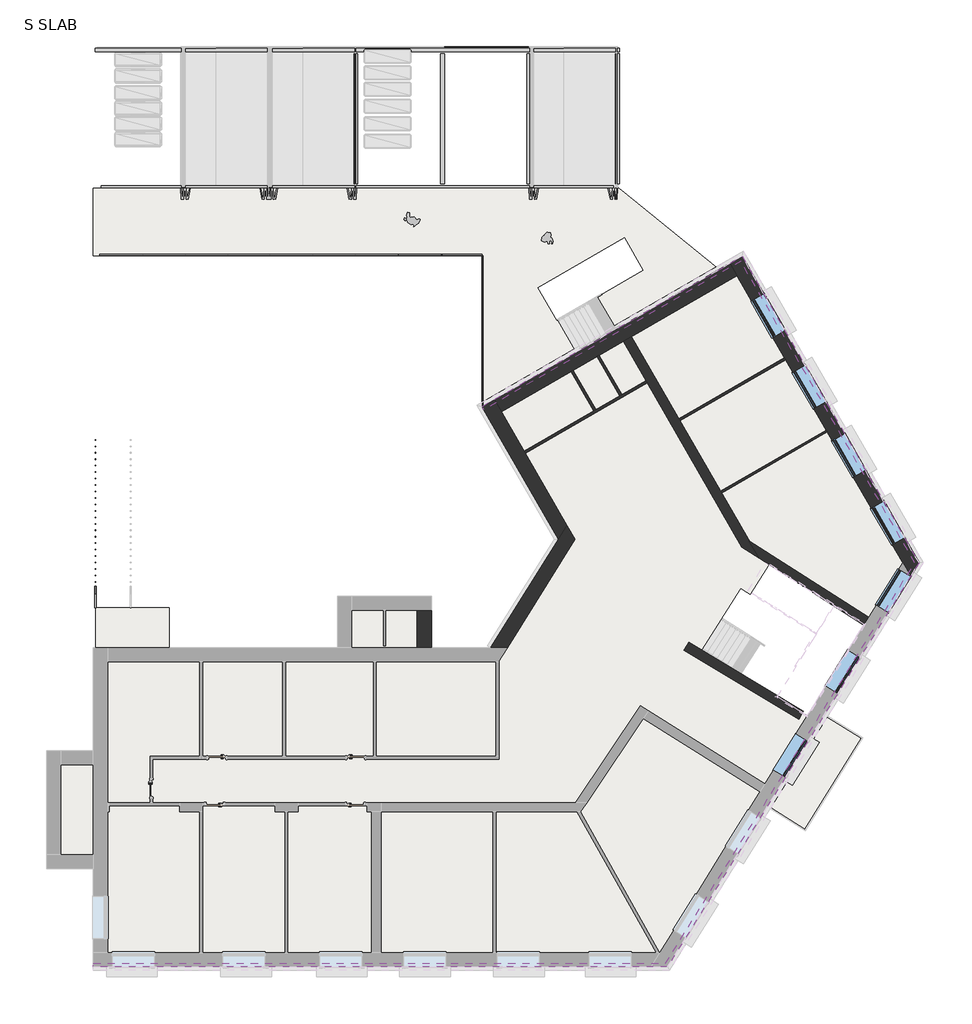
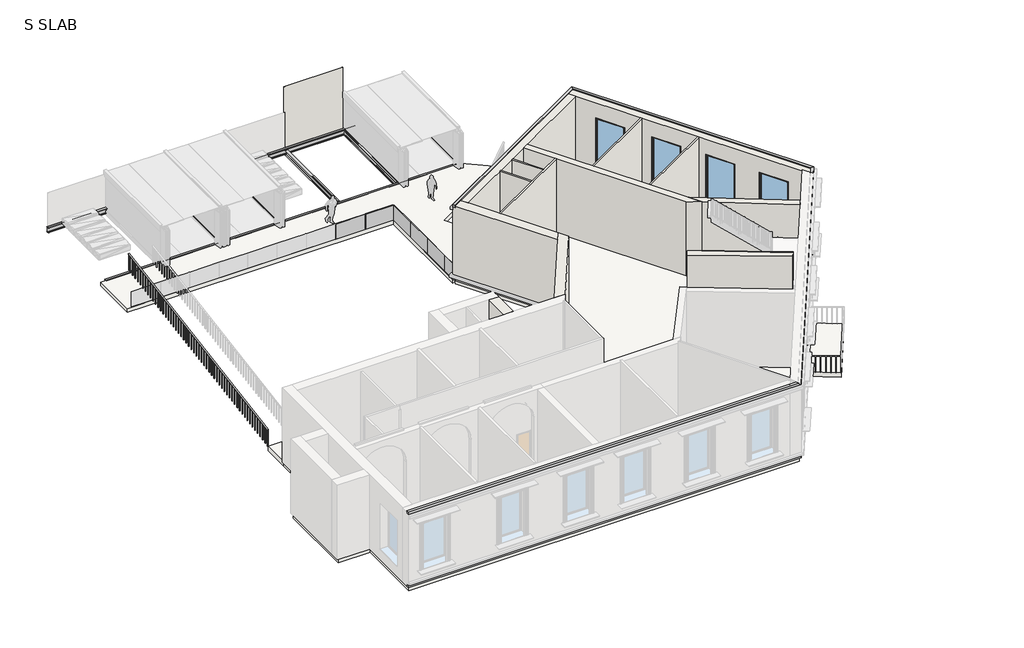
# One storey, part 2 of 4: 14 walls, 7 beams, 7 plates, 7 windows, 2 proxies, 2 slabs, 1 railing.
"""IFC4 building model written with IfcOpenShell, lengths in millimetres."""

from ifc_helpers import new_model, si_unit, frame, origin, place, context, project, spatial, polyline, outline, extrude, faceted_brep, transform, mapped, element, save
from components import ub_universal_beams_ub305x165x40_a89eb652, ub_universal_beams_ub305x165x40_de42b84e, ub_universal_beams_ub305x165x40_bd95d4e6, system_panel_glazed_a0877fd3, system_panel_glazed_1c1d8f5b, system_panel_glazed_525ed004, system_panel_glazed_75f56514, windows_sgl_plain_1810x1210mm_9f3af405

model = new_model("IFC4")

# Units and contexts
model_context = context("Model", 3, world=origin())
ifc_project = project(units=[si_unit("LENGTHUNIT", "METRE", prefix="MILLI")], contexts=[model_context])

# Site, building, storey
site = spatial("IfcSite", under=ifc_project)
building = spatial("IfcBuilding", under=site)
storey = spatial("IfcBuildingStorey", under=building, Name="S SLAB", Elevation=6300.0)

# Beams
placement = place(None, origin())
ub_universal_beams_ub305x165x40_shape = ub_universal_beams_ub305x165x40_a89eb652(model_context)
element("IfcBeam", 1, ObjectType="UB-Universal Beams : UB305x165x40", at=placement, inside=storey, context=model_context, shape_type="MappedRepresentation", body=[
    mapped(ub_universal_beams_ub305x165x40_shape, transform((3293.8958184, 35051.9809735, 6148.3), x_axis=(1.0, 0.0, 0.0), y_axis=(0.0, 1.0, 0.0), z_axis=(0.0, 0.0, 1.0))),
])
ub_universal_beams_ub305x165x40_2_shape = ub_universal_beams_ub305x165x40_de42b84e(model_context)
element("IfcBeam", 2, ObjectType="UB-Universal Beams : UB305x165x40", at=placement, inside=storey, context=model_context, shape_type="MappedRepresentation", body=[
    mapped(ub_universal_beams_ub305x165x40_2_shape, transform((-2187.5596017, 29190.0288254, 6148.3), x_axis=(1.0, 0.0, 0.0), y_axis=(0.0, 1.0, 0.0), z_axis=(0.0, 0.0, 1.0))),
])
ub_universal_beams_ub305x165x40_3_shape = ub_universal_beams_ub305x165x40_bd95d4e6(model_context)
element("IfcBeam", 3, ObjectType="UB-Universal Beams : UB305x165x40", at=placement, inside=storey, context=model_context, shape_type="MappedRepresentation", body=[
    mapped(ub_universal_beams_ub305x165x40_3_shape, transform((-5929.1066547, 32121.0048994, 6148.3), x_axis=(0.0, -1.0, 0.0), y_axis=(1.0, 0.0, 0.0), z_axis=(0.0, 0.0, 1.0))),
])
element("IfcBeam", 4, ObjectType="UB-Universal Beams : UB305x165x40", at=placement, inside=storey, context=model_context, shape_type="MappedRepresentation", body=[
    mapped(ub_universal_beams_ub305x165x40_3_shape, transform((-2245.9725728, 32121.0048994, 6148.3), x_axis=(0.0, -1.0, 0.0), y_axis=(1.0, 0.0, 0.0), z_axis=(0.0, 0.0, 1.0))),
])
element("IfcBeam", 5, ObjectType="UB-Universal Beams : UB305x165x40", at=placement, inside=storey, context=model_context, shape_type="MappedRepresentation", body=[
    mapped(ub_universal_beams_ub305x165x40_3_shape, transform((1448.4037035, 32121.0048994, 6148.3), x_axis=(0.0, -1.0, 0.0), y_axis=(1.0, 0.0, 0.0), z_axis=(0.0, 0.0, 1.0))),
])
element("IfcBeam", 6, ObjectType="UB-Universal Beams : UB305x165x40", at=placement, inside=storey, context=model_context, shape_type="MappedRepresentation", body=[
    mapped(ub_universal_beams_ub305x165x40_3_shape, transform((5139.3879332, 32121.0048994, 6148.3), x_axis=(0.0, -1.0, 0.0), y_axis=(1.0, 0.0, 0.0), z_axis=(0.0, 0.0, 1.0))),
])
element("IfcBeam", 7, ObjectType="UB-Universal Beams : UB305x165x40", at=placement, inside=storey, context=model_context, shape_type="MappedRepresentation", body=[
    mapped(ub_universal_beams_ub305x165x40_3_shape, transform((8901.9425222, 32121.0048994, 6148.3), x_axis=(0.0, -1.0, 0.0), y_axis=(1.0, 0.0, 0.0), z_axis=(0.0, 0.0, 1.0))),
])

# Proxies
element("IfcBuildingElementProxy", 8, Name="Reveal", ObjectType="Reveal", at=placement, inside=storey, context=model_context, shape_type="SweptSolid", body=[
    extrude(outline(polyline([(-13431.6874983, -4009.9711746), (-13431.6874983, -3857.5711746), (10950.2600964, -3857.5711746), (11034.8726536, -4009.9711746), (-13431.6874983, -4009.9711746)])), frame((0.0, 0.0, 6300.0), z_axis=(0.0, 0.0, 1.0), x_axis=(1.0, 0.0, 0.0)), (0.0, 0.0, 1.0), 152.4),
    extrude(outline(polyline([(21579.4545819, 13204.412798), (21757.1517651, 13201.4322483), (11034.8726536, -4009.9711746), (10950.2600964, -3857.5711746), (21579.4545819, 13204.412798)])), frame((0.0, 0.0, 6300.0), z_axis=(0.0, 0.0, 1.0), x_axis=(1.0, 0.0, 0.0)), (0.0, 0.0, 1.0), 152.4),
    extrude(outline(polyline([(14161.37951, 26052.8957169), (14217.1617815, 26261.0779885), (21757.1517651, 13201.4322483), (21579.4545819, 13204.412798), (14161.37951, 26052.8957169)])), frame((0.0, 0.0, 6300.0), z_axis=(0.0, 0.0, 1.0), x_axis=(1.0, 0.0, 0.0)), (0.0, 0.0, 1.0), 152.4),
    extrude(outline(polyline([(3208.2366131, 19729.0957169), (3132.0366131, 19861.0779885), (14217.1617815, 26261.0779885), (14161.37951, 26052.8957169), (3208.2366131, 19729.0957169)])), frame((0.0, 0.0, 6300.0), z_axis=(0.0, 0.0, 1.0), x_axis=(1.0, 0.0, 0.0)), (0.0, 0.0, 1.0), 152.4),
])
element("IfcBuildingElementProxy", 9, Name="Reveal", ObjectType="Reveal", at=placement, inside=storey, context=model_context, shape_type="SweptSolid", body=[
    extrude(outline(polyline([(-13431.6874983, -4009.9711746), (-13431.6874983, -3857.5711746), (10950.2600964, -3857.5711746), (11034.8726536, -4009.9711746), (-13431.6874983, -4009.9711746)])), frame((0.0, 0.0, 11100.0), z_axis=(0.0, 0.0, 1.0), x_axis=(1.0, 0.0, 0.0)), (0.0, 0.0, 1.0), 152.4),
    extrude(outline(polyline([(21579.4545819, 13204.412798), (21757.1517651, 13201.4322483), (11034.8726536, -4009.9711746), (10950.2600964, -3857.5711746), (21579.4545819, 13204.412798)])), frame((0.0, 0.0, 11100.0), z_axis=(0.0, 0.0, 1.0), x_axis=(1.0, 0.0, 0.0)), (0.0, 0.0, 1.0), 152.4),
    extrude(outline(polyline([(14161.37951, 26052.8957169), (14217.1617815, 26261.0779885), (21757.1517651, 13201.4322483), (21579.4545819, 13204.412798), (14161.37951, 26052.8957169)])), frame((0.0, 0.0, 11100.0), z_axis=(0.0, 0.0, 1.0), x_axis=(1.0, 0.0, 0.0)), (0.0, 0.0, 1.0), 152.4),
    extrude(outline(polyline([(3208.2366131, 19729.0957169), (3132.0366131, 19861.0779885), (14217.1617815, 26261.0779885), (14161.37951, 26052.8957169), (3208.2366131, 19729.0957169)])), frame((0.0, 0.0, 11100.0), z_axis=(0.0, 0.0, 1.0), x_axis=(1.0, 0.0, 0.0)), (0.0, 0.0, 1.0), 152.4),
])

# Plates
system_panel_glazed_shape = system_panel_glazed_a0877fd3(model_context)
element("IfcPlate", 10, ObjectType="System Panel : Glazed", at=placement, inside=storey, context=model_context, shape_type="MappedRepresentation", body=[
    mapped(system_panel_glazed_shape, transform((473.312502, 26292.1681881, 6300.0), x_axis=(1.0, 0.0, 0.0), y_axis=(0.0, 1.0, 0.0), z_axis=(0.0, 0.0, 1.0))),
])
element("IfcPlate", 11, ObjectType="System Panel : Glazed", at=placement, inside=storey, context=model_context, shape_type="MappedRepresentation", body=[
    mapped(system_panel_glazed_shape, transform((3132.0366131, 25377.1681879, 6300.0), x_axis=(0.0, -1.0, 0.0), y_axis=(1.0, 0.0, 0.0), z_axis=(0.0, 0.0, 1.0))),
])
element("IfcPlate", 12, ObjectType="System Panel : Glazed", at=placement, inside=storey, context=model_context, shape_type="MappedRepresentation", body=[
    mapped(system_panel_glazed_shape, transform((3132.0366131, 23547.1681878, 6300.0), x_axis=(0.0, -1.0, 0.0), y_axis=(1.0, 0.0, 0.0), z_axis=(0.0, 0.0, 1.0))),
])
element("IfcPlate", 13, ObjectType="System Panel : Glazed", at=placement, inside=storey, context=model_context, shape_type="MappedRepresentation", body=[
    mapped(system_panel_glazed_shape, transform((3132.0366131, 21717.1681878, 6300.0), x_axis=(0.0, -1.0, 0.0), y_axis=(1.0, 0.0, 0.0), z_axis=(0.0, 0.0, 1.0))),
])
system_panel_glazed_2_shape = system_panel_glazed_1c1d8f5b(model_context)
element("IfcPlate", 14, ObjectType="System Panel : Glazed", at=placement, inside=storey, context=model_context, shape_type="MappedRepresentation", body=[
    mapped(system_panel_glazed_2_shape, transform((1408.3125018, 26292.1681881, 6300.0), x_axis=(1.0, 0.0, 0.0), y_axis=(0.0, 1.0, 0.0), z_axis=(0.0, 0.0, 1.0))),
])
system_panel_glazed_3_shape = system_panel_glazed_525ed004(model_context)
element("IfcPlate", 15, ObjectType="System Panel : Glazed", at=placement, inside=storey, context=model_context, shape_type="MappedRepresentation", body=[
    mapped(system_panel_glazed_3_shape, transform((2280.1745574, 26292.1681881, 6300.0), x_axis=(1.0, 0.0, 0.0), y_axis=(0.0, 1.0, 0.0), z_axis=(0.0, 0.0, 1.0))),
])
system_panel_glazed_4_shape = system_panel_glazed_75f56514(model_context)
element("IfcPlate", 16, ObjectType="System Panel : Glazed", at=placement, inside=storey, context=model_context, shape_type="MappedRepresentation", body=[
    mapped(system_panel_glazed_4_shape, transform((3132.0366131, 20331.6230881, 6300.0), x_axis=(0.0, -1.0, 0.0), y_axis=(1.0, 0.0, 0.0), z_axis=(0.0, 0.0, 1.0))),
])

# Railing
element("IfcRailing", 17, ObjectType="1100mm", at=placement, inside=storey, context=model_context, shape_type="SweptSolid", body=[
    extrude(outline(polyline([(11291.1254445, 7349.3104075), (11291.1254445, 7400.0), (26292.1681881, 9900.0), (26292.1681881, 9849.3104075), (11291.1254445, 7349.3104075)])), frame((-13368.1675533, 0.0, 0.0), z_axis=(1.0, 0.0, 0.0), x_axis=(0.0, 1.0, 0.0)), (0.0, 0.0, 1.0), 50.0),
    extrude(outline(polyline([(26128.6254445, 8774.8279593), (26128.6254445, 9822.0551782), (26153.6254445, 9826.2215553), (26153.6254445, 8774.8279593), (26128.6254445, 8774.8279593)])), frame((-13355.6675533, 0.0, 0.0), z_axis=(1.0, 0.0, 0.0), x_axis=(0.0, 1.0, 0.0)), (0.0, 0.0, 1.0), 25.0),
    extrude(outline(polyline([(25853.6254445, 8728.9978119), (25853.6254445, 9776.2250308), (25878.6254445, 9780.3914079), (25878.6254445, 8728.9978119), (25853.6254445, 8728.9978119)])), frame((-13355.6675533, 0.0, 0.0), z_axis=(1.0, 0.0, 0.0), x_axis=(0.0, 1.0, 0.0)), (0.0, 0.0, 1.0), 25.0),
    extrude(outline(polyline([(25578.6254445, 8683.1676645), (25578.6254445, 9730.3948834), (25603.6254445, 9734.5612605), (25603.6254445, 8683.1676645), (25578.6254445, 8683.1676645)])), frame((-13355.6675533, 0.0, 0.0), z_axis=(1.0, 0.0, 0.0), x_axis=(0.0, 1.0, 0.0)), (0.0, 0.0, 1.0), 25.0),
    extrude(outline(polyline([(25303.6254445, 8637.3375171), (25303.6254445, 9684.564736), (25328.6254445, 9688.7311131), (25328.6254445, 8637.3375171), (25303.6254445, 8637.3375171)])), frame((-13355.6675533, 0.0, 0.0), z_axis=(1.0, 0.0, 0.0), x_axis=(0.0, 1.0, 0.0)), (0.0, 0.0, 1.0), 25.0),
    extrude(outline(polyline([(25028.6254445, 8591.5073697), (25028.6254445, 9638.7345887), (25053.6254445, 9642.9009657), (25053.6254445, 8591.5073697), (25028.6254445, 8591.5073697)])), frame((-13355.6675533, 0.0, 0.0), z_axis=(1.0, 0.0, 0.0), x_axis=(0.0, 1.0, 0.0)), (0.0, 0.0, 1.0), 25.0),
    extrude(outline(polyline([(24753.6254445, 8545.6772223), (24753.6254445, 9592.9044413), (24778.6254445, 9597.0708183), (24778.6254445, 8545.6772223), (24753.6254445, 8545.6772223)])), frame((-13355.6675533, 0.0, 0.0), z_axis=(1.0, 0.0, 0.0), x_axis=(0.0, 1.0, 0.0)), (0.0, 0.0, 1.0), 25.0),
    extrude(outline(polyline([(24478.6254445, 8499.8470749), (24478.6254445, 9547.0742939), (24503.6254445, 9551.2406709), (24503.6254445, 8499.8470749), (24478.6254445, 8499.8470749)])), frame((-13355.6675533, 0.0, 0.0), z_axis=(1.0, 0.0, 0.0), x_axis=(0.0, 1.0, 0.0)), (0.0, 0.0, 1.0), 25.0),
    extrude(outline(polyline([(24203.6254445, 8454.0169275), (24203.6254445, 9501.2441465), (24228.6254445, 9505.4105235), (24228.6254445, 8454.0169275), (24203.6254445, 8454.0169275)])), frame((-13355.6675533, 0.0, 0.0), z_axis=(1.0, 0.0, 0.0), x_axis=(0.0, 1.0, 0.0)), (0.0, 0.0, 1.0), 25.0),
    extrude(outline(polyline([(23928.6254445, 8408.1867801), (23928.6254445, 9455.4139991), (23953.6254445, 9459.5803761), (23953.6254445, 8408.1867801), (23928.6254445, 8408.1867801)])), frame((-13355.6675533, 0.0, 0.0), z_axis=(1.0, 0.0, 0.0), x_axis=(0.0, 1.0, 0.0)), (0.0, 0.0, 1.0), 25.0),
    extrude(outline(polyline([(23653.6254445, 8362.3566327), (23653.6254445, 9409.5838517), (23678.6254445, 9413.7502287), (23678.6254445, 8362.3566327), (23653.6254445, 8362.3566327)])), frame((-13355.6675533, 0.0, 0.0), z_axis=(1.0, 0.0, 0.0), x_axis=(0.0, 1.0, 0.0)), (0.0, 0.0, 1.0), 25.0),
    extrude(outline(polyline([(23378.6254445, 8316.5264853), (23378.6254445, 9363.7537043), (23403.6254445, 9367.9200813), (23403.6254445, 8316.5264853), (23378.6254445, 8316.5264853)])), frame((-13355.6675533, 0.0, 0.0), z_axis=(1.0, 0.0, 0.0), x_axis=(0.0, 1.0, 0.0)), (0.0, 0.0, 1.0), 25.0),
    extrude(outline(polyline([(23103.6254445, 8270.6963379), (23103.6254445, 9317.9235569), (23128.6254445, 9322.0899339), (23128.6254445, 8270.6963379), (23103.6254445, 8270.6963379)])), frame((-13355.6675533, 0.0, 0.0), z_axis=(1.0, 0.0, 0.0), x_axis=(0.0, 1.0, 0.0)), (0.0, 0.0, 1.0), 25.0),
    extrude(outline(polyline([(22828.6254445, 8224.8661905), (22828.6254445, 9272.0934095), (22853.6254445, 9276.2597865), (22853.6254445, 8224.8661905), (22828.6254445, 8224.8661905)])), frame((-13355.6675533, 0.0, 0.0), z_axis=(1.0, 0.0, 0.0), x_axis=(0.0, 1.0, 0.0)), (0.0, 0.0, 1.0), 25.0),
    extrude(outline(polyline([(22553.6254445, 8179.0360432), (22553.6254445, 9226.2632621), (22578.6254445, 9230.4296391), (22578.6254445, 8179.0360432), (22553.6254445, 8179.0360432)])), frame((-13355.6675533, 0.0, 0.0), z_axis=(1.0, 0.0, 0.0), x_axis=(0.0, 1.0, 0.0)), (0.0, 0.0, 1.0), 25.0),
    extrude(outline(polyline([(22278.6254445, 8133.2058958), (22278.6254445, 9180.4331147), (22303.6254445, 9184.5994917), (22303.6254445, 8133.2058958), (22278.6254445, 8133.2058958)])), frame((-13355.6675533, 0.0, 0.0), z_axis=(1.0, 0.0, 0.0), x_axis=(0.0, 1.0, 0.0)), (0.0, 0.0, 1.0), 25.0),
    extrude(outline(polyline([(22003.6254445, 8087.3757484), (22003.6254445, 9134.6029673), (22028.6254445, 9138.7693444), (22028.6254445, 8087.3757484), (22003.6254445, 8087.3757484)])), frame((-13355.6675533, 0.0, 0.0), z_axis=(1.0, 0.0, 0.0), x_axis=(0.0, 1.0, 0.0)), (0.0, 0.0, 1.0), 25.0),
    extrude(outline(polyline([(21728.6254445, 8041.545601), (21728.6254445, 9088.7728199), (21753.6254445, 9092.939197), (21753.6254445, 8041.545601), (21728.6254445, 8041.545601)])), frame((-13355.6675533, 0.0, 0.0), z_axis=(1.0, 0.0, 0.0), x_axis=(0.0, 1.0, 0.0)), (0.0, 0.0, 1.0), 25.0),
    extrude(outline(polyline([(21453.6254445, 7995.7154536), (21453.6254445, 9042.9426725), (21478.6254445, 9047.1090496), (21478.6254445, 7995.7154536), (21453.6254445, 7995.7154536)])), frame((-13355.6675533, 0.0, 0.0), z_axis=(1.0, 0.0, 0.0), x_axis=(0.0, 1.0, 0.0)), (0.0, 0.0, 1.0), 25.0),
    extrude(outline(polyline([(21178.6254445, 7949.8853062), (21178.6254445, 8997.1125251), (21203.6254445, 9001.2789022), (21203.6254445, 7949.8853062), (21178.6254445, 7949.8853062)])), frame((-13355.6675533, 0.0, 0.0), z_axis=(1.0, 0.0, 0.0), x_axis=(0.0, 1.0, 0.0)), (0.0, 0.0, 1.0), 25.0),
    extrude(outline(polyline([(20903.6254445, 7904.0551588), (20903.6254445, 8951.2823777), (20928.6254445, 8955.4487548), (20928.6254445, 7904.0551588), (20903.6254445, 7904.0551588)])), frame((-13355.6675533, 0.0, 0.0), z_axis=(1.0, 0.0, 0.0), x_axis=(0.0, 1.0, 0.0)), (0.0, 0.0, 1.0), 25.0),
    extrude(outline(polyline([(20628.6254445, 7858.2250114), (20628.6254445, 8905.4522303), (20653.6254445, 8909.6186074), (20653.6254445, 7858.2250114), (20628.6254445, 7858.2250114)])), frame((-13355.6675533, 0.0, 0.0), z_axis=(1.0, 0.0, 0.0), x_axis=(0.0, 1.0, 0.0)), (0.0, 0.0, 1.0), 25.0),
    extrude(outline(polyline([(20353.6254445, 7812.394864), (20353.6254445, 8859.622083), (20378.6254445, 8863.78846), (20378.6254445, 7812.394864), (20353.6254445, 7812.394864)])), frame((-13355.6675533, 0.0, 0.0), z_axis=(1.0, 0.0, 0.0), x_axis=(0.0, 1.0, 0.0)), (0.0, 0.0, 1.0), 25.0),
    extrude(outline(polyline([(20078.6254445, 7766.5647166), (20078.6254445, 8813.7919356), (20103.6254445, 8817.9583126), (20103.6254445, 7766.5647166), (20078.6254445, 7766.5647166)])), frame((-13355.6675533, 0.0, 0.0), z_axis=(1.0, 0.0, 0.0), x_axis=(0.0, 1.0, 0.0)), (0.0, 0.0, 1.0), 25.0),
    extrude(outline(polyline([(19803.6254445, 7720.7345692), (19803.6254445, 8767.9617882), (19828.6254445, 8772.1281652), (19828.6254445, 7720.7345692), (19803.6254445, 7720.7345692)])), frame((-13355.6675533, 0.0, 0.0), z_axis=(1.0, 0.0, 0.0), x_axis=(0.0, 1.0, 0.0)), (0.0, 0.0, 1.0), 25.0),
    extrude(outline(polyline([(19528.6254445, 7674.9044218), (19528.6254445, 8722.1316408), (19553.6254445, 8726.2980178), (19553.6254445, 7674.9044218), (19528.6254445, 7674.9044218)])), frame((-13355.6675533, 0.0, 0.0), z_axis=(1.0, 0.0, 0.0), x_axis=(0.0, 1.0, 0.0)), (0.0, 0.0, 1.0), 25.0),
    extrude(outline(polyline([(19253.6254445, 7629.0742744), (19253.6254445, 8676.3014934), (19278.6254445, 8680.4678704), (19278.6254445, 7629.0742744), (19253.6254445, 7629.0742744)])), frame((-13355.6675533, 0.0, 0.0), z_axis=(1.0, 0.0, 0.0), x_axis=(0.0, 1.0, 0.0)), (0.0, 0.0, 1.0), 25.0),
    extrude(outline(polyline([(18978.6254445, 7583.244127), (18978.6254445, 8630.471346), (19003.6254445, 8634.637723), (19003.6254445, 7583.244127), (18978.6254445, 7583.244127)])), frame((-13355.6675533, 0.0, 0.0), z_axis=(1.0, 0.0, 0.0), x_axis=(0.0, 1.0, 0.0)), (0.0, 0.0, 1.0), 25.0),
    extrude(outline(polyline([(18703.6254445, 7537.4139796), (18703.6254445, 8584.6411986), (18728.6254445, 8588.8075756), (18728.6254445, 7537.4139796), (18703.6254445, 7537.4139796)])), frame((-13355.6675533, 0.0, 0.0), z_axis=(1.0, 0.0, 0.0), x_axis=(0.0, 1.0, 0.0)), (0.0, 0.0, 1.0), 25.0),
    extrude(outline(polyline([(18428.6254445, 7491.5838322), (18428.6254445, 8538.8110512), (18453.6254445, 8542.9774282), (18453.6254445, 7491.5838322), (18428.6254445, 7491.5838322)])), frame((-13355.6675533, 0.0, 0.0), z_axis=(1.0, 0.0, 0.0), x_axis=(0.0, 1.0, 0.0)), (0.0, 0.0, 1.0), 25.0),
    extrude(outline(polyline([(18153.6254445, 7445.7536848), (18153.6254445, 8492.9809038), (18178.6254445, 8497.1472808), (18178.6254445, 7445.7536848), (18153.6254445, 7445.7536848)])), frame((-13355.6675533, 0.0, 0.0), z_axis=(1.0, 0.0, 0.0), x_axis=(0.0, 1.0, 0.0)), (0.0, 0.0, 1.0), 25.0),
    extrude(outline(polyline([(17878.6254445, 7399.9235375), (17878.6254445, 8447.1507564), (17903.6254445, 8451.3171334), (17903.6254445, 7399.9235375), (17878.6254445, 7399.9235375)])), frame((-13355.6675533, 0.0, 0.0), z_axis=(1.0, 0.0, 0.0), x_axis=(0.0, 1.0, 0.0)), (0.0, 0.0, 1.0), 25.0),
    extrude(outline(polyline([(17603.6254445, 7354.0933901), (17603.6254445, 8401.320609), (17628.6254445, 8405.4869861), (17628.6254445, 7354.0933901), (17603.6254445, 7354.0933901)])), frame((-13355.6675533, 0.0, 0.0), z_axis=(1.0, 0.0, 0.0), x_axis=(0.0, 1.0, 0.0)), (0.0, 0.0, 1.0), 25.0),
    extrude(outline(polyline([(17328.6254445, 7308.2632427), (17328.6254445, 8355.4904616), (17353.6254445, 8359.6568387), (17353.6254445, 7308.2632427), (17328.6254445, 7308.2632427)])), frame((-13355.6675533, 0.0, 0.0), z_axis=(1.0, 0.0, 0.0), x_axis=(0.0, 1.0, 0.0)), (0.0, 0.0, 1.0), 25.0),
    extrude(outline(polyline([(17053.6254445, 7262.4330953), (17053.6254445, 8309.6603142), (17078.6254445, 8313.8266913), (17078.6254445, 7262.4330953), (17053.6254445, 7262.4330953)])), frame((-13355.6675533, 0.0, 0.0), z_axis=(1.0, 0.0, 0.0), x_axis=(0.0, 1.0, 0.0)), (0.0, 0.0, 1.0), 25.0),
    extrude(outline(polyline([(16778.6254445, 7216.6029479), (16778.6254445, 8263.8301668), (16803.6254445, 8267.9965439), (16803.6254445, 7216.6029479), (16778.6254445, 7216.6029479)])), frame((-13355.6675533, 0.0, 0.0), z_axis=(1.0, 0.0, 0.0), x_axis=(0.0, 1.0, 0.0)), (0.0, 0.0, 1.0), 25.0),
    extrude(outline(polyline([(16503.6254445, 7170.7728005), (16503.6254445, 8218.0000194), (16528.6254445, 8222.1663965), (16528.6254445, 7170.7728005), (16503.6254445, 7170.7728005)])), frame((-13355.6675533, 0.0, 0.0), z_axis=(1.0, 0.0, 0.0), x_axis=(0.0, 1.0, 0.0)), (0.0, 0.0, 1.0), 25.0),
    extrude(outline(polyline([(16228.6254445, 7124.9426531), (16228.6254445, 8172.169872), (16253.6254445, 8176.3362491), (16253.6254445, 7124.9426531), (16228.6254445, 7124.9426531)])), frame((-13355.6675533, 0.0, 0.0), z_axis=(1.0, 0.0, 0.0), x_axis=(0.0, 1.0, 0.0)), (0.0, 0.0, 1.0), 25.0),
    extrude(outline(polyline([(15953.6254445, 7079.1125057), (15953.6254445, 8126.3397247), (15978.6254445, 8130.5061017), (15978.6254445, 7079.1125057), (15953.6254445, 7079.1125057)])), frame((-13355.6675533, 0.0, 0.0), z_axis=(1.0, 0.0, 0.0), x_axis=(0.0, 1.0, 0.0)), (0.0, 0.0, 1.0), 25.0),
    extrude(outline(polyline([(15678.6254445, 7033.2823583), (15678.6254445, 8080.5095773), (15703.6254445, 8084.6759543), (15703.6254445, 7033.2823583), (15678.6254445, 7033.2823583)])), frame((-13355.6675533, 0.0, 0.0), z_axis=(1.0, 0.0, 0.0), x_axis=(0.0, 1.0, 0.0)), (0.0, 0.0, 1.0), 25.0),
    extrude(outline(polyline([(15403.6254445, 6987.4522109), (15403.6254445, 8034.6794299), (15428.6254445, 8038.8458069), (15428.6254445, 6987.4522109), (15403.6254445, 6987.4522109)])), frame((-13355.6675533, 0.0, 0.0), z_axis=(1.0, 0.0, 0.0), x_axis=(0.0, 1.0, 0.0)), (0.0, 0.0, 1.0), 25.0),
    extrude(outline(polyline([(15128.6254445, 6941.6220635), (15128.6254445, 7988.8492825), (15153.6254445, 7993.0156595), (15153.6254445, 6941.6220635), (15128.6254445, 6941.6220635)])), frame((-13355.6675533, 0.0, 0.0), z_axis=(1.0, 0.0, 0.0), x_axis=(0.0, 1.0, 0.0)), (0.0, 0.0, 1.0), 25.0),
    extrude(outline(polyline([(14853.6254445, 6895.7919161), (14853.6254445, 7943.0191351), (14878.6254445, 7947.1855121), (14878.6254445, 6895.7919161), (14853.6254445, 6895.7919161)])), frame((-13355.6675533, 0.0, 0.0), z_axis=(1.0, 0.0, 0.0), x_axis=(0.0, 1.0, 0.0)), (0.0, 0.0, 1.0), 25.0),
    extrude(outline(polyline([(14578.6254445, 6849.9617687), (14578.6254445, 7897.1889877), (14603.6254445, 7901.3553647), (14603.6254445, 6849.9617687), (14578.6254445, 6849.9617687)])), frame((-13355.6675533, 0.0, 0.0), z_axis=(1.0, 0.0, 0.0), x_axis=(0.0, 1.0, 0.0)), (0.0, 0.0, 1.0), 25.0),
    extrude(outline(polyline([(14303.6254445, 6804.1316213), (14303.6254445, 7851.3588403), (14328.6254445, 7855.5252173), (14328.6254445, 6804.1316213), (14303.6254445, 6804.1316213)])), frame((-13355.6675533, 0.0, 0.0), z_axis=(1.0, 0.0, 0.0), x_axis=(0.0, 1.0, 0.0)), (0.0, 0.0, 1.0), 25.0),
    extrude(outline(polyline([(14028.6254445, 6758.3014739), (14028.6254445, 7805.5286929), (14053.6254445, 7809.6950699), (14053.6254445, 6758.3014739), (14028.6254445, 6758.3014739)])), frame((-13355.6675533, 0.0, 0.0), z_axis=(1.0, 0.0, 0.0), x_axis=(0.0, 1.0, 0.0)), (0.0, 0.0, 1.0), 25.0),
    extrude(outline(polyline([(13753.6254445, 6712.4713265), (13753.6254445, 7759.6985455), (13778.6254445, 7763.8649225), (13778.6254445, 6712.4713265), (13753.6254445, 6712.4713265)])), frame((-13355.6675533, 0.0, 0.0), z_axis=(1.0, 0.0, 0.0), x_axis=(0.0, 1.0, 0.0)), (0.0, 0.0, 1.0), 25.0),
    extrude(outline(polyline([(13478.6254445, 6666.6411792), (13478.6254445, 7713.8683981), (13503.6254445, 7718.0347751), (13503.6254445, 6666.6411792), (13478.6254445, 6666.6411792)])), frame((-13355.6675533, 0.0, 0.0), z_axis=(1.0, 0.0, 0.0), x_axis=(0.0, 1.0, 0.0)), (0.0, 0.0, 1.0), 25.0),
    extrude(outline(polyline([(13203.6254445, 6620.8110318), (13203.6254445, 7668.0382507), (13228.6254445, 7672.2046277), (13228.6254445, 6620.8110318), (13203.6254445, 6620.8110318)])), frame((-13355.6675533, 0.0, 0.0), z_axis=(1.0, 0.0, 0.0), x_axis=(0.0, 1.0, 0.0)), (0.0, 0.0, 1.0), 25.0),
    extrude(outline(polyline([(12928.6254445, 6574.9808844), (12928.6254445, 7622.2081033), (12953.6254445, 7626.3744804), (12953.6254445, 6574.9808844), (12928.6254445, 6574.9808844)])), frame((-13355.6675533, 0.0, 0.0), z_axis=(1.0, 0.0, 0.0), x_axis=(0.0, 1.0, 0.0)), (0.0, 0.0, 1.0), 25.0),
    extrude(outline(polyline([(12653.6254445, 6529.150737), (12653.6254445, 7576.3779559), (12678.6254445, 7580.544333), (12678.6254445, 6529.150737), (12653.6254445, 6529.150737)])), frame((-13355.6675533, 0.0, 0.0), z_axis=(1.0, 0.0, 0.0), x_axis=(0.0, 1.0, 0.0)), (0.0, 0.0, 1.0), 25.0),
    extrude(outline(polyline([(12378.6254445, 6483.3205896), (12378.6254445, 7530.5478085), (12403.6254445, 7534.7141856), (12403.6254445, 6483.3205896), (12378.6254445, 6483.3205896)])), frame((-13355.6675533, 0.0, 0.0), z_axis=(1.0, 0.0, 0.0), x_axis=(0.0, 1.0, 0.0)), (0.0, 0.0, 1.0), 25.0),
    extrude(outline(polyline([(12103.6254445, 6437.4904422), (12103.6254445, 7484.7176611), (12128.6254445, 7488.8840382), (12128.6254445, 6437.4904422), (12103.6254445, 6437.4904422)])), frame((-13355.6675533, 0.0, 0.0), z_axis=(1.0, 0.0, 0.0), x_axis=(0.0, 1.0, 0.0)), (0.0, 0.0, 1.0), 25.0),
    extrude(outline(polyline([(11828.6254445, 6391.6602948), (11828.6254445, 7438.8875137), (11853.6254445, 7443.0538908), (11853.6254445, 6391.6602948), (11828.6254445, 6391.6602948)])), frame((-13355.6675533, 0.0, 0.0), z_axis=(1.0, 0.0, 0.0), x_axis=(0.0, 1.0, 0.0)), (0.0, 0.0, 1.0), 25.0),
    extrude(outline(polyline([(11553.6254445, 6345.8301474), (11553.6254445, 7393.0573664), (11578.6254445, 7397.2237434), (11578.6254445, 6345.8301474), (11553.6254445, 6345.8301474)])), frame((-13355.6675533, 0.0, 0.0), z_axis=(1.0, 0.0, 0.0), x_axis=(0.0, 1.0, 0.0)), (0.0, 0.0, 1.0), 25.0),
    extrude(outline(polyline([(26267.1681881, 8797.9168115), (26267.1681881, 9845.1440304), (26292.1681881, 9849.3104075), (26292.1681881, 8797.9168115), (26267.1681881, 8797.9168115)])), frame((-13355.6675533, 0.0, 0.0), z_axis=(1.0, 0.0, 0.0), x_axis=(0.0, 1.0, 0.0)), (0.0, 0.0, 1.0), 25.0),
    extrude(outline(polyline([(11291.1254445, 6302.0831885), (11291.1254445, 7349.3104075), (11316.1254445, 7353.4767845), (11316.1254445, 6302.0831885), (11291.1254445, 6302.0831885)])), frame((-13355.6675533, 0.0, 0.0), z_axis=(1.0, 0.0, 0.0), x_axis=(0.0, 1.0, 0.0)), (0.0, 0.0, 1.0), 25.0),
])

# Slabs
element("IfcSlab", 18, ObjectType="Floor_Timber_22Cbd-225Joist", at=placement, inside=storey, context=model_context, shape_type="SweptSolid", body=[
    extrude(outline(polyline([(-13431.6874983, 29156.6848226), (8969.4340755, 29156.6848226), (13238.6867343, 25696.1551565), (3132.0366131, 19861.0779885), (3132.0366131, 26292.1681881), (-11231.9484639, 26292.1681881), (-13431.6874983, 26292.1681881), (-13431.6874983, 29156.6848226)]), holes=[polyline([(5517.7203946, 24924.7584737), (6317.7203946, 23539.1178276), (9998.3283606, 25664.1178276), (9198.3283606, 27049.7584737), (5517.7203946, 24924.7584737)])]), frame((0.0, 0.0, 6053.0), z_axis=(0.0, 0.0, 1.0), x_axis=(1.0, 0.0, 0.0)), (0.0, 0.0, 1.0), 247.0),
])
element("IfcSlab", 19, ObjectType="Standard", at=placement, inside=storey, context=model_context, shape_type="SweptSolid", body=[
    extrude(outline(polyline([(14180.5592412, 26124.4754481), (21640.5525636, 13203.3879896), (17642.9715821, 6786.4706278), (19326.1427263, 5737.896589), (16901.9029635, 1828.5409423), (15210.6688297, 2882.1380244), (10979.352603, -3909.9711746), (-13331.6874983, -3909.9711746), (-13331.6874983, 265.5548037), (-15331.6874983, 265.5548037), (-15331.6874983, 5105.5548037), (-13331.6874983, 5105.5548037), (-13331.6874983, 9581.2672687), (-13331.6874983, 11290.0288254), (-10196.6874983, 11290.0288254), (-10196.6874983, 9490.0288254), (-2931.9484639, 9490.0288254), (-2931.9484639, 11690.0288254), (868.0515361, 11690.0288254), (868.0515361, 9490.0288254), (3557.4506914, 9490.0288254), (6508.5530916, 14212.7798952), (3268.6391535, 19824.4754481), (14180.5592412, 26124.4754481)]), holes=[polyline([(15369.2945182, 13128.9755979), (14572.5887617, 11850.1034437), (14168.1858249, 12108.6730953), (12492.0926788, 9487.2634032), (17081.3362641, 6641.4167251), (19476.0564365, 10503.1687564), (15369.2945182, 13128.9755979)])]), frame((0.0, 0.0, 6000.0), z_axis=(0.0, 0.0, 1.0), x_axis=(1.0, 0.0, 0.0)), (0.0, 0.0, 1.0), 300.0),
])

# Walls
element("IfcWall", 20, ObjectType="Wall-Partn_12P-70MStd-12P", at=placement, inside=storey, context=model_context, shape_type="SweptSolid", body=[
    extrude(outline(polyline([(13293.856242, 16259.462872), (17797.5465393, 18859.6696774), (17845.0465393, 18777.3972641), (13341.356242, 16177.1904586), (13293.856242, 16259.462872)])), frame((0.0, 0.0, 6300.0), z_axis=(0.0, 0.0, 1.0), x_axis=(1.0, 0.0, 0.0)), (0.0, 0.0, 1.0), 4900.0),
])
element("IfcWall", 21, ObjectType="Wall-Partn_12P-70MStd-12P", at=placement, inside=storey, context=model_context, shape_type="SweptSolid", body=[
    extrude(outline(polyline([(11520.106242, 19331.6879919), (16023.7965393, 21931.8947974), (16071.2965393, 21849.622384), (11567.606242, 19249.4155785), (11520.106242, 19331.6879919)])), frame((0.0, 0.0, 6300.0), z_axis=(0.0, 0.0, 1.0), x_axis=(1.0, 0.0, 0.0)), (0.0, 0.0, 1.0), 4900.0),
])
element("IfcWall", 22, ObjectType="Wall-Partn_12P-70MStd-12P", at=placement, inside=storey, context=model_context, shape_type="SweptSolid", body=[
    extrude(outline(polyline([(8114.7107865, 22045.0059407), (9090.2602376, 20355.3047262), (9007.9878242, 20307.8047262), (8032.4383731, 21997.5059407), (8114.7107865, 22045.0059407)])), frame((0.0, 0.0, 6300.0), z_axis=(0.0, 0.0, 1.0), x_axis=(1.0, 0.0, 0.0)), (0.0, 0.0, 1.0), 4900.0),
])
element("IfcWall", 23, ObjectType="Wall-Partn_12P-70MStd-12P", at=placement, inside=storey, context=model_context, shape_type="Brep", body=[
    faceted_brep([(4974.7013064, 17869.4891183, 6300.0), (10170.4955316, 20869.2823128, 6300.0), (10170.4955316, 20869.2823128, 11200.0), (4974.7013064, 17869.4891183, 11200.0), (4927.2013064, 17951.7615316, 6300.0), (4927.2013064, 17951.7615316, 11200.0), (7899.7081317, 19667.9391474, 11200.0), (7981.9805451, 19715.4391474, 11200.0), (9007.9878242, 20307.8047262, 11200.0), (9090.2602376, 20355.3047262, 11200.0), (10122.9955316, 20951.5547262, 11200.0), (10122.9955316, 20951.5547262, 6300.0), (9090.2602376, 20355.3047262, 6300.0), (9007.9878242, 20307.8047262, 6300.0), (7981.9805451, 19715.4391474, 6300.0), (7899.7081317, 19667.9391474, 6300.0)], [[[0, 1, 2, 3]], [[4, 5, 6, 7, 8, 9, 10, 11, 12, 13, 14, 15]], [[1, 0, 4, 15, 14, 13, 12, 11]], [[0, 3, 5, 4]], [[2, 1, 11, 10]], [[3, 2, 10, 9, 8, 7, 6, 5]]]),
])
element("IfcWall", 24, ObjectType="Wall-Partn_12P-70MStd-12P", at=placement, inside=storey, context=model_context, shape_type="SweptSolid", body=[
    extrude(outline(polyline([(7899.7081317, 19667.9391474), (6924.1586807, 21357.640362), (7006.431094, 21405.140362), (7981.9805451, 19715.4391474), (7899.7081317, 19667.9391474)])), frame((0.0, 0.0, 6300.0), z_axis=(0.0, 0.0, 1.0), x_axis=(1.0, 0.0, 0.0)), (0.0, 0.0, 1.0), 4900.0),
])
element("IfcWall", 25, ObjectType="Wall-Partn_12P-70MStd-12P 2", at=placement, inside=storey, context=model_context, shape_type="SweptSolid", body=[
    extrude(outline(polyline([(5118.2976061, 35182.5288254), (1448.4037035, 35182.5288254), (1448.4037035, 35197.5288254), (5118.2976061, 35197.5288254), (5118.2976061, 35182.5288254)])), frame((0.0, 0.0, 6300.0), z_axis=(0.0, 0.0, 1.0), x_axis=(1.0, 0.0, 0.0)), (0.0, 0.0, 1.0), 4000.0),
])
element("IfcWall", 26, ObjectType="ug wall", at=placement, inside=storey, context=model_context, shape_type="Brep", body=[
    faceted_brep([(21397.5743657, 12624.2385734, 6500.0), (21397.5743657, 12624.2385734, 6652.4), (21397.5743657, 12624.2385734, 10900.0), (21397.5743657, 12624.2385734, 11052.4), (21397.5743657, 12624.2385734, 11100.0), (21311.2098419, 12773.8263165, 11100.0), (21311.2098419, 12773.8263165, 11200.0), (13997.5465393, 25441.4627462, 11200.0), (13773.7465393, 25829.0957169, 11200.0), (13773.7465393, 25829.0957169, 11100.0), (13697.5465393, 25961.0779885, 11100.0), (13697.5465393, 25961.0779885, 11052.4), (13697.5465393, 25961.0779885, 10900.0), (13697.5465393, 25961.0779885, 6652.4), (13697.5465393, 25961.0779885, 6500.0), (13697.5465393, 25961.0779885, 6452.4), (13773.7465393, 25829.0957169, 6452.4), (13773.7465393, 25829.0957169, 6300.0), (13997.5465393, 25441.4627462, 6300.0), (21057.5565557, 13213.1666959, 6300.0), (21311.2098419, 12773.8263165, 6300.0), (21311.2098419, 12773.8263165, 6452.4), (21397.5743657, 12624.2385734, 6452.4), (15523.7965393, 22797.9202011, 10200.0), (15523.7965393, 22797.9202011, 7200.0), (14618.7965393, 24365.426182, 7200.0), (14618.7965393, 24365.426182, 10200.0), (17276.2965393, 19762.5011609, 10200.0), (17276.2965393, 19762.5011609, 7200.0), (16371.2965393, 21330.0071417, 7200.0), (16371.2965393, 21330.0071417, 10200.0), (18960.6715393, 16845.0780819, 10200.0), (18960.6715393, 16845.0780819, 7200.0), (18055.6715393, 18412.5840627, 7200.0), (18055.6715393, 18412.5840627, 10200.0), (20623.7965393, 13964.4610825, 10200.0), (20623.7965393, 13964.4610825, 7200.0), (19718.7965393, 15531.9670634, 7200.0), (19718.7965393, 15531.9670634, 10200.0), (14217.1617815, 26261.0779885, 6500.0), (14217.1617815, 26261.0779885, 6652.4), (14217.1617815, 26261.0779885, 10900.0), (14217.1617815, 26261.0779885, 11052.4), (14217.1617815, 26261.0779885, 11100.0), (21757.1517651, 13201.4322483, 11100.0), (21757.1517651, 13201.4322483, 11052.4), (21757.1517651, 13201.4322483, 10900.0), (21757.1517651, 13201.4322483, 6652.4), (21757.1517651, 13201.4322483, 6500.0), (21757.1517651, 13201.4322483, 6452.4), (14217.1617815, 26261.0779885, 6452.4), (16043.4117815, 23097.9202011, 7200.0), (16043.4117815, 23097.9202011, 10200.0), (15138.4117815, 24665.426182, 10200.0), (15138.4117815, 24665.426182, 7200.0), (17795.9117815, 20062.5011609, 7200.0), (17795.9117815, 20062.5011609, 10200.0), (16890.9117815, 21630.0071417, 10200.0), (16890.9117815, 21630.0071417, 7200.0), (19480.2867815, 17145.0780819, 7200.0), (19480.2867815, 17145.0780819, 10200.0), (18575.2867815, 18712.5840627, 10200.0), (18575.2867815, 18712.5840627, 7200.0), (21143.4117815, 14264.4610825, 7200.0), (21143.4117815, 14264.4610825, 10200.0), (20238.4117815, 15831.9670634, 10200.0), (20238.4117815, 15831.9670634, 7200.0), (14161.37951, 26052.8957169, 6300.0), (21579.4545819, 13204.412798, 6300.0), (21579.4545819, 13204.412798, 11200.0), (14161.37951, 26052.8957169, 11200.0), (14161.37951, 26052.8957169, 6452.4), (21579.4545819, 13204.412798, 6452.4), (14161.37951, 26052.8957169, 11100.0), (21579.4545819, 13204.412798, 11100.0)], [[[0, 1, 2, 3, 4, 5, 6, 7, 8, 9, 10, 11, 12, 13, 14, 15, 16, 17, 18, 19, 20, 21, 22], [23, 24, 25, 26], [27, 28, 29, 30], [31, 32, 33, 34], [35, 36, 37, 38]], [[39, 40, 41, 42, 43, 44, 45, 46, 47, 48, 49, 50], [51, 52, 53, 54], [55, 56, 57, 58], [59, 60, 61, 62], [63, 64, 65, 66]], [[20, 19, 18, 17, 67, 68]], [[1, 0, 22, 49, 48, 47, 46, 45, 44, 4, 3, 2]], [[14, 13, 12, 11, 10, 43, 42, 41, 40, 39, 50, 15]], [[8, 7, 6, 69, 70]], [[71, 67, 17, 16]], [[72, 71, 16, 15, 50, 49, 22, 21]], [[67, 71, 72, 68]], [[68, 72, 21, 20]], [[73, 74, 5, 4, 44, 43, 10, 9]], [[70, 73, 9, 8]], [[74, 73, 70, 69]], [[74, 69, 6, 5]], [[24, 23, 52, 51]], [[25, 24, 51, 54]], [[26, 25, 54, 53]], [[23, 26, 53, 52]], [[28, 27, 56, 55]], [[29, 28, 55, 58]], [[30, 29, 58, 57]], [[27, 30, 57, 56]], [[32, 31, 60, 59]], [[33, 32, 59, 62]], [[34, 33, 62, 61]], [[31, 34, 61, 60]], [[36, 35, 64, 63]], [[37, 36, 63, 66]], [[38, 37, 66, 65]], [[35, 38, 65, 64]]]),
])
element("IfcWall", 27, ObjectType="ug wall", at=placement, inside=storey, context=model_context, shape_type="SweptSolid", body=[
    extrude(outline(polyline([(368.0515361, 9590.0288254), (368.0515361, 11190.0288254), (968.0515361, 11190.0288254), (968.0515361, 9590.0288254), (368.0515361, 9590.0288254)])), frame((0.0, 0.0, 6300.0), z_axis=(0.0, 0.0, 1.0), x_axis=(1.0, 0.0, 0.0)), (0.0, 0.0, 1.0), 4900.0),
])
element("IfcWall", 28, ObjectType="ug wall", at=placement, inside=storey, context=model_context, shape_type="Brep", body=[
    faceted_brep([(4209.5268283, 9590.0288254, 6300.0), (7091.7809482, 14202.5996151, 6300.0), (7091.7809482, 14202.5996151, 11200.0), (4209.5268283, 9590.0288254, 11200.0), (6752.009933, 14791.1002763, 6300.0), (6391.9075202, 14214.8159512, 6300.0), (3502.0197862, 9590.0288254, 6300.0), (3502.0197862, 9590.0288254, 6500.0), (3502.0197862, 9590.0288254, 6652.4), (3502.0197862, 9590.0288254, 11200.0), (6391.9075202, 14214.8159512, 11200.0), (6752.009933, 14791.1002763, 11200.0)], [[[0, 1, 2, 3]], [[4, 5, 6, 7, 8, 9, 10, 11]], [[1, 0, 6, 5, 4]], [[0, 3, 9, 8, 7, 6]], [[2, 1, 4, 11]], [[9, 3, 2, 11, 10]]]),
])
element("IfcWall", 29, ObjectType="ug wall", at=placement, inside=storey, context=model_context, shape_type="Brep", body=[
    faceted_brep([(6752.009933, 14791.1002763, 11200.0), (6752.009933, 14791.1002763, 6300.0), (3951.6518554, 19641.4627462, 6300.0), (3727.8518554, 20029.0957169, 6300.0), (3727.8518554, 20029.0957169, 6452.4), (3651.6518554, 20161.0779885, 6452.4), (3651.6518554, 20161.0779885, 6500.0), (3651.6518554, 20161.0779885, 6652.4), (3651.6518554, 20161.0779885, 10900.0), (3651.6518554, 20161.0779885, 11052.4), (3651.6518554, 20161.0779885, 11100.0), (3727.8518554, 20029.0957169, 11100.0), (3727.8518554, 20029.0957169, 11200.0), (3951.6518554, 19641.4627462, 11200.0), (6391.9075202, 14214.8159512, 6652.4), (6391.9075202, 14214.8159512, 11200.0), (3208.2366131, 19729.0957169, 11200.0), (3208.2366131, 19729.0957169, 11100.0), (3132.0366131, 19861.0779885, 11100.0), (3132.0366131, 19861.0779885, 11052.4), (3132.0366131, 19861.0779885, 10900.0), (3132.0366131, 19861.0779885, 6652.4), (3132.0366131, 19861.0779885, 6500.0), (3132.0366131, 19861.0779885, 6452.4), (3208.2366131, 19729.0957169, 6452.4), (3208.2366131, 19729.0957169, 6300.0), (6391.9075202, 14214.8159512, 6300.0), (6391.9075202, 14214.8159512, 6500.0)], [[[0, 1, 2, 3, 4, 5, 6, 7, 8, 9, 10, 11, 12, 13]], [[14, 15, 16, 17, 18, 19, 20, 21, 22, 23, 24, 25, 26, 27]], [[1, 26, 25, 3, 2]], [[1, 0, 15, 14, 27, 26]], [[7, 6, 5, 23, 22, 21, 20, 19, 18, 10, 9, 8]], [[15, 0, 13, 12, 16]], [[24, 4, 3, 25]], [[4, 24, 23, 5]], [[17, 11, 10, 18]], [[11, 17, 16, 12]]]),
])
element("IfcWall", 30, ObjectType="ug wall", at=placement, inside=storey, context=model_context, shape_type="Brep", body=[
    faceted_brep([(3951.6518554, 19641.4627462, 6300.0), (9147.4460805, 22641.2559407, 6300.0), (9493.856242, 22841.2559407, 6300.0), (13997.5465393, 25441.4627462, 6300.0), (13997.5465393, 25441.4627462, 11200.0), (9493.856242, 22841.2559407, 11200.0), (9147.4460805, 22641.2559407, 11200.0), (3951.6518554, 19641.4627462, 11200.0), (3651.6518554, 20161.0779885, 6500.0), (3651.6518554, 20161.0779885, 6652.4), (3651.6518554, 20161.0779885, 10900.0), (3651.6518554, 20161.0779885, 11052.4), (3651.6518554, 20161.0779885, 11100.0), (13697.5465393, 25961.0779885, 11100.0), (13697.5465393, 25961.0779885, 11052.4), (13697.5465393, 25961.0779885, 10900.0), (13697.5465393, 25961.0779885, 6652.4), (13697.5465393, 25961.0779885, 6500.0), (13697.5465393, 25961.0779885, 6452.4), (3651.6518554, 20161.0779885, 6452.4), (3727.8518554, 20029.0957169, 6300.0), (13773.7465393, 25829.0957169, 6300.0), (13773.7465393, 25829.0957169, 6452.4), (13773.7465393, 25829.0957169, 11100.0), (13773.7465393, 25829.0957169, 11200.0), (3727.8518554, 20029.0957169, 11200.0), (3727.8518554, 20029.0957169, 11100.0), (3727.8518554, 20029.0957169, 6452.4)], [[[0, 1, 2, 3, 4, 5, 6, 7]], [[8, 9, 10, 11, 12, 13, 14, 15, 16, 17, 18, 19]], [[3, 2, 1, 0, 20, 21]], [[4, 3, 21, 22, 18, 17, 16, 15, 14, 13, 23, 24]], [[0, 7, 25, 26, 12, 11, 10, 9, 8, 19, 27, 20]], [[7, 6, 5, 4, 24, 25]], [[27, 22, 21, 20]], [[22, 27, 19, 18]], [[26, 23, 13, 12]], [[23, 26, 25, 24]]]),
])
element("IfcWall", 31, ObjectType="ug wall 2", at=placement, inside=storey, context=model_context, shape_type="Brep", body=[
    faceted_brep([(14944.3907927, 13400.6531705, 6300.0), (14509.8805222, 14153.2470355, 6300.0), (9493.856242, 22841.2559407, 6300.0), (9493.856242, 22841.2559407, 11200.0), (14509.8805222, 14153.2470355, 11200.0), (14944.3907927, 13400.6531705, 11200.0), (14212.2356698, 13868.7830424, 6300.0), (14212.2356698, 13868.7830424, 11200.0), (9147.4460805, 22641.2559407, 11200.0), (9147.4460805, 22641.2559407, 6300.0)], [[[0, 1, 2, 3, 4, 5]], [[6, 7, 8, 9]], [[2, 1, 0, 6, 9]], [[3, 2, 9, 8]], [[0, 5, 7, 6]], [[5, 4, 3, 8, 7]]]),
])
element("IfcWall", 32, ObjectType="ug wall 2", at=placement, inside=storey, context=model_context, shape_type="SweptSolid", body=[
    extrude(outline(polyline([(19399.7065972, 10551.985789), (14944.3907927, 13400.6531705), (14509.8805222, 14153.2470355), (19611.2262009, 10891.5170764), (19399.7065972, 10551.985789)])), frame((0.0, 0.0, 6300.0), z_axis=(0.0, 0.0, 1.0), x_axis=(1.0, 0.0, 0.0)), (0.0, 0.0, 1.0), 4900.0),
])
element("IfcWall", 33, ObjectType="ug wall 2", at=placement, inside=storey, context=model_context, shape_type="Brep", body=[
    faceted_brep([(16832.4645034, 6889.7832328, 6300.0), (11946.6108894, 9825.5002597, 6300.0), (11946.6108894, 9825.5002597, 11200.0), (12612.3912503, 9425.45906, 11200.0), (16832.4645034, 6889.7832328, 11200.0), (16626.4492735, 6546.9163125, 6300.0), (16626.4492735, 6546.9163125, 11200.0), (11740.5956595, 9482.6333395, 11200.0), (11740.5956595, 9482.6333395, 6300.0), (16791.662075, 6821.8765883, 11200.0)], [[[0, 1, 2, 3, 4]], [[5, 6, 7, 8]], [[1, 0, 5, 8]], [[2, 1, 8, 7]], [[0, 4, 9, 6, 5]], [[4, 3, 9]], [[3, 2, 7, 6, 9]]]),
])

# Windows
windows_sgl_plain_1810x1210mm_shape = windows_sgl_plain_1810x1210mm_9f3af405(model_context)
element("IfcWindow", 34, ObjectType="Windows_Sgl_Plain : 1810x1210mm", at=placement, inside=storey, context=model_context, shape_type="MappedRepresentation", body=[
    mapped(windows_sgl_plain_1810x1210mm_shape, transform((20669.9514038, 12007.627371, 8090.0), x_axis=(0.5287625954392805, 0.8487697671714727, 0.0), y_axis=(-0.8487697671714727, 0.5287625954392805, 0.0), z_axis=(0.0, 0.0, 1.0))),
])
element("IfcWindow", 35, ObjectType="Windows_Sgl_Plain : 1810x1210mm", at=placement, inside=storey, context=model_context, shape_type="MappedRepresentation", body=[
    mapped(windows_sgl_plain_1810x1210mm_shape, transform((20438.427763, 14902.4423569, 8090.0), x_axis=(-0.4999999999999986, 0.8660254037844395, 0.0), y_axis=(-0.8660254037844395, -0.4999999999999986, 0.0), z_axis=(0.0, 0.0, 1.0))),
])
element("IfcWindow", 36, ObjectType="Windows_Sgl_Plain : 1810x1210mm", at=placement, inside=storey, context=model_context, shape_type="MappedRepresentation", body=[
    mapped(windows_sgl_plain_1810x1210mm_shape, transform((18775.302763, 17783.0593562, 8090.0), x_axis=(-0.4999999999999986, 0.8660254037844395, 0.0), y_axis=(-0.8660254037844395, -0.4999999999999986, 0.0), z_axis=(0.0, 0.0, 1.0))),
])
element("IfcWindow", 37, ObjectType="Windows_Sgl_Plain : 1810x1210mm", at=placement, inside=storey, context=model_context, shape_type="MappedRepresentation", body=[
    mapped(windows_sgl_plain_1810x1210mm_shape, transform((17090.927763, 20700.4824352, 8090.0), x_axis=(-0.4999999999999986, 0.8660254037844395, 0.0), y_axis=(-0.8660254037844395, -0.4999999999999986, 0.0), z_axis=(0.0, 0.0, 1.0))),
])
element("IfcWindow", 38, ObjectType="Windows_Sgl_Plain : 1810x1210mm", at=placement, inside=storey, context=model_context, shape_type="MappedRepresentation", body=[
    mapped(windows_sgl_plain_1810x1210mm_shape, transform((15338.427763, 23735.9014755, 8090.0), x_axis=(-0.4999999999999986, 0.8660254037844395, 0.0), y_axis=(-0.8660254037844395, -0.4999999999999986, 0.0), z_axis=(0.0, 0.0, 1.0))),
])
element("IfcWindow", 39, ObjectType="Windows_Sgl_Plain : 1810x1210mm", at=placement, inside=storey, context=model_context, shape_type="MappedRepresentation", body=[
    mapped(windows_sgl_plain_1810x1210mm_shape, transform((16279.2628345, 4991.6799287, 7940.0), x_axis=(-0.5287625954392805, -0.8487697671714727, 0.0), y_axis=(0.8487697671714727, -0.5287625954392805, 0.0), z_axis=(0.0, 0.0, 1.0))),
])
element("IfcWindow", 40, ObjectType="Windows_Sgl_Plain : 1810x1210mm", at=placement, inside=storey, context=model_context, shape_type="MappedRepresentation", body=[
    mapped(windows_sgl_plain_1810x1210mm_shape, transform((18505.3533613, 8565.0006485, 7940.0), x_axis=(-0.5287625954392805, -0.8487697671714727, 0.0), y_axis=(0.8487697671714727, -0.5287625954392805, 0.0), z_axis=(0.0, 0.0, 1.0))),
])

save(model, "model.ifc")
